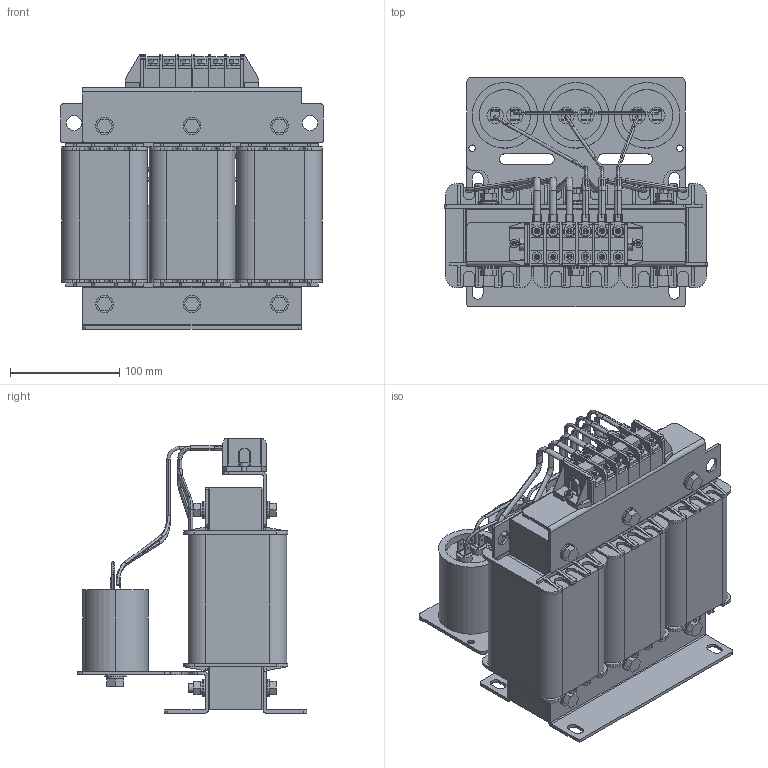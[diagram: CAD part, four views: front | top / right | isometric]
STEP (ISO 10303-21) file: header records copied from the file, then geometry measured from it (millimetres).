
FILE_DESCRIPTION (( 'STEP AP203' ), '1' );
FILE_NAME ('蔓躅漤铋 耔眢耥 翳朦蝠 _ ISINOF-11_24-4.STEP', '2026-07-16T12:15:17', ( '' ), ( '' ), 'SwSTEP 2.0', 'SolidWorks 2021', '' );
FILE_SCHEMA (( 'CONFIG_CONTROL_DESIGN' ));
Length unit declared in the file: inch
Products named in the file (179): 11KW滤波电抗器380V50Hz_175; 11KW滤波电抗器380V50Hz_74; 11KW滤波电抗器380V50Hz_99; 11KW滤波电抗器380V50Hz_174; 11KW滤波电抗器380V50Hz_40; 11KW滤波电抗器380V50Hz_126; 11KW滤波电抗器380V50Hz_106; 11KW滤波电抗器380V50Hz_133; 11KW滤波电抗器380V50Hz_141; 11KW滤波电抗器380V50Hz_135; 11KW滤波电抗器380V50Hz_108; 11KW滤波电抗器380V50Hz_125; 11KW滤波电抗器380V50Hz_112; 11KW滤波电抗器380V50Hz_21; 11KW滤波电抗器380V50Hz_87; 11KW滤波电抗器380V50Hz_166; 11KW滤波电抗器380V50Hz_146; 11KW滤波电抗器380V50Hz_89; 11KW滤波电抗器380V50Hz_3; 11KW滤波电抗器380V50Hz_4; 11KW滤波电抗器380V50Hz_140; 11KW滤波电抗器380V50Hz_13; 11KW滤波电抗器380V50Hz_121; 11KW滤波电抗器380V50Hz_123; 11KW滤波电抗器380V50Hz_52; 11KW滤波电抗器380V50Hz_42; 11KW滤波电抗器380V50Hz_73; 11KW滤波电抗器380V50Hz_86; 11KW滤波电抗器380V50Hz_43; 11KW滤波电抗器380V50Hz_92; 11KW滤波电抗器380V50Hz_33; 11KW滤波电抗器380V50Hz_72; 11KW滤波电抗器380V50Hz_53; 11KW滤波电抗器380V50Hz_97; 11KW滤波电抗器380V50Hz_116; 11KW滤波电抗器380V50Hz_131; 11KW滤波电抗器380V50Hz; 11KW滤波电抗器380V50Hz_51; 11KW滤波电抗器380V50Hz_57; 11KW滤波电抗器380V50Hz_156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
Assembly tree (178 placements, depth 2):
  蔓躅漤铋 耔眢耥 翳朦蝠 _ ISINOF-11_24-4
    11KW滤波电抗器380V50Hz_157
    11KW滤波电抗器380V50Hz_35
    11KW滤波电抗器380V50Hz_61
    11KW滤波电抗器380V50Hz_45
    11KW滤波电抗器380V50Hz_66
    11KW滤波电抗器380V50Hz_36
    11KW滤波电抗器380V50Hz_133
    11KW滤波电抗器380V50Hz_99
    11KW滤波电抗器380V50Hz_101
    11KW滤波电抗器380V50Hz_171
    11KW滤波电抗器380V50Hz_95
    11KW滤波电抗器380V50Hz_10
    11KW滤波电抗器380V50Hz_116
    11KW滤波电抗器380V50Hz_90
    11KW滤波电抗器380V50Hz_117
    11KW滤波电抗器380V50Hz_26
    11KW滤波电抗器380V50Hz_46
    11KW滤波电抗器380V50Hz_125
    11KW滤波电抗器380V50Hz_57
    11KW滤波电抗器380V50Hz_93
    11KW滤波电抗器380V50Hz_67
    11KW滤波电抗器380V50Hz_136
    11KW滤波电抗器380V50Hz_149
    11KW滤波电抗器380V50Hz_50
    11KW滤波电抗器380V50Hz_44
    11KW滤波电抗器380V50Hz_150
    11KW滤波电抗器380V50Hz_141
    11KW滤波电抗器380V50Hz_140
    11KW滤波电抗器380V50Hz
    11KW滤波电抗器380V50Hz_40
    11KW滤波电抗器380V50Hz_98
    11KW滤波电抗器380V50Hz_139
    11KW滤波电抗器380V50Hz_124
    11KW滤波电抗器380V50Hz_156
    11KW滤波电抗器380V50Hz_102
    11KW滤波电抗器380V50Hz_75
    11KW滤波电抗器380V50Hz_16
    11KW滤波电抗器380V50Hz_138
    11KW滤波电抗器380V50Hz_161
    11KW滤波电抗器380V50Hz_38
    11KW滤波电抗器380V50Hz_65
    11KW滤波电抗器380V50Hz_8
    11KW滤波电抗器380V50Hz_69
    11KW滤波电抗器380V50Hz_43
    11KW滤波电抗器380V50Hz_168
    11KW滤波电抗器380V50Hz_148
    11KW滤波电抗器380V50Hz_14
    11KW滤波电抗器380V50Hz_86
    11KW滤波电抗器380V50Hz_155
    11KW滤波电抗器380V50Hz_20
    11KW滤波电抗器380V50Hz_27
    11KW滤波电抗器380V50Hz_126
    11KW滤波电抗器380V50Hz_111
    11KW滤波电抗器380V50Hz_30
    11KW滤波电抗器380V50Hz_52
    11KW滤波电抗器380V50Hz_79
    11KW滤波电抗器380V50Hz_89
    11KW滤波电抗器380V50Hz_7
    11KW滤波电抗器380V50Hz_48
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Bounding box: 240 x 210 x 251 mm (x, y, z)
Volume: 4270133.9 mm3; surface area: 981926.7 mm2
Topology: 178 solids, 178 shells, 2382 faces, 5824 edges, 3832 vertices
Faces by surface type: plane 1650, cylinder 594, bspline 84, cone 28, torus 26
Entity records: 92591 total; most frequent: CARTESIAN_POINT 16203, DIRECTION 11692, ORIENTED_EDGE 11648, EDGE_CURVE 5824, LINE 4350, VECTOR 4350, VERTEX_POINT 3832, AXIS2_PLACEMENT_3D 3671
